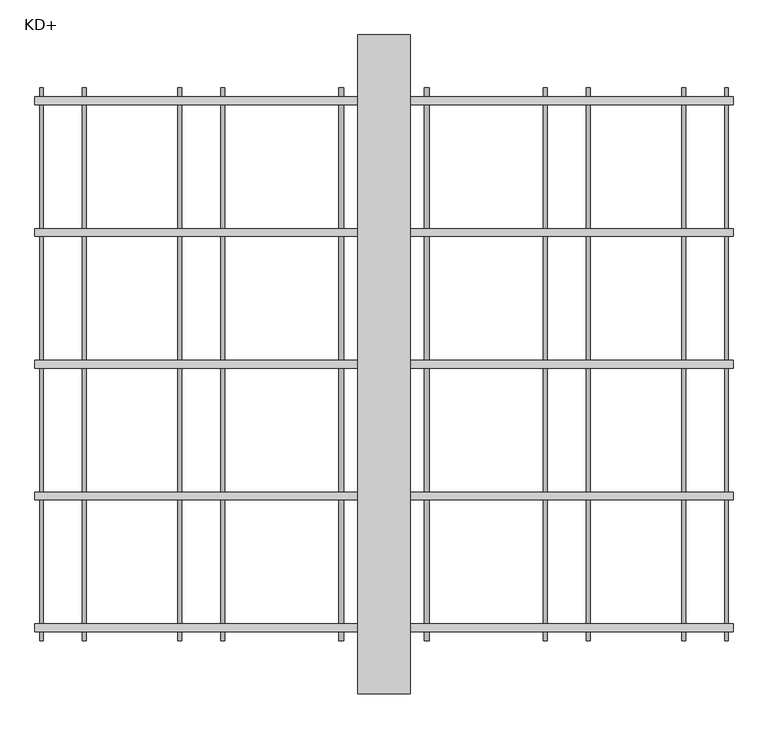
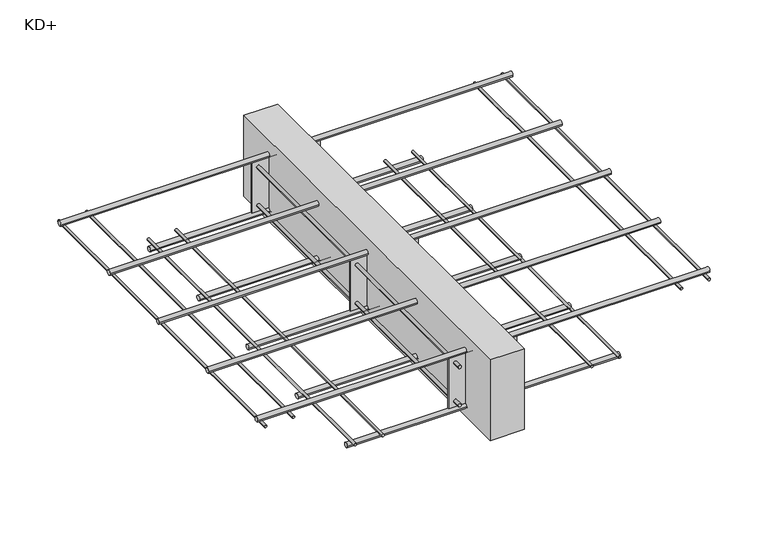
"""IFC4 building model written with IfcOpenShell, lengths in millimetres: fastener geometry, ACINOXplus_Typenreihe_K : KD+."""

import ifcopenshell
import ifcopenshell.guid

model = None  # the IFC model being written
_history = None  # IfcOwnerHistory: only IFC2X3 demands one
_inside = {}  # id of a spatial element -> (the spatial element, [elements in it])
_under = {}  # id of a project, library or spatial element -> (it, [spatial elements below it])
_declared = {}  # id of a project -> (the project, [libraries it declares])
_typed = {}  # id of a type object -> (the type object, [elements of that type])
_made_of = {}  # id of a material, layer set ... -> (it, [elements and type objects made of it])


def new_model(schema):
    """Start an empty IFC model of exactly this schema.

    Asked for "IFC4X3", IfcOpenShell would pick the latest addendum, in which some entities
    have other attributes; the version numbers below select the first issue.
    IFC2X3 requires an IfcOwnerHistory on every rooted entity: one is made here for all.
    """
    global model, _history
    if schema == "IFC4X3":
        model = ifcopenshell.file(schema_version=(4, 3, 0, 0))
    else:
        model = ifcopenshell.file(schema=schema)
    _inside.clear()
    _under.clear()
    _declared.clear()
    _typed.clear()
    _made_of.clear()
    _history = None
    if model.schema == "IFC2X3":
        org = make("IfcOrganization", Name="unknown")
        user = make(
            "IfcPersonAndOrganization",
            ThePerson=make("IfcPerson", FamilyName="unknown"),
            TheOrganization=org,
        )
        app = make(
            "IfcApplication",
            ApplicationDeveloper=org,
            Version="unknown",
            ApplicationFullName="unknown",
            ApplicationIdentifier="unknown",
        )
        _history = make(
            "IfcOwnerHistory",
            OwningUser=user,
            OwningApplication=app,
            ChangeAction="ADDED",
            CreationDate=0,
        )
    return model


def make(cls, **values):
    """One entity of the class cls with the attributes given. An attribute that is None is left unset."""
    return model.create_entity(
        cls, **{name: value for name, value in values.items() if value is not None}
    )


def rooted(cls, **values):
    """An entity with a GlobalId (a new one), such as an element, a storey or a relation."""
    return make(cls, GlobalId=ifcopenshell.guid.new(), OwnerHistory=_history, **values)


def si_unit(unit_type, name, prefix=None):
    """IfcSIUnit, for example si_unit("LENGTHUNIT", "METRE", prefix="MILLI")."""
    return make("IfcSIUnit", UnitType=unit_type, Prefix=prefix, Name=name)


def assignment(units):
    """IfcUnitAssignment: the units of a project."""
    return None if units is None else make("IfcUnitAssignment", Units=units)


def point(xyz):
    """IfcCartesianPoint."""
    return None if xyz is None else make("IfcCartesianPoint", Coordinates=xyz)


def direction(xyz):
    """IfcDirection."""
    return None if xyz is None else make("IfcDirection", DirectionRatios=xyz)


def frame(location, z_axis=None, x_axis=None):
    """IfcAxis2Placement3D, a coordinate frame: its origin and axes. An axis left out is left unset."""
    return make(
        "IfcAxis2Placement3D",
        Location=point(location),
        Axis=direction(z_axis),
        RefDirection=direction(x_axis),
    )


def frame_2d(location, x_axis=None):
    """IfcAxis2Placement2D, a coordinate frame in the plane: its origin and x axis."""
    return make(
        "IfcAxis2Placement2D", Location=point(location), RefDirection=direction(x_axis)
    )


def origin():
    """The frame at (0, 0, 0) with its axes left unset."""
    return frame((0.0, 0.0, 0.0))


def place(relative_to, where):
    """IfcLocalPlacement: puts the frame where relative to a parent placement (None: the world)."""
    return make(
        "IfcLocalPlacement", PlacementRelTo=relative_to, RelativePlacement=where
    )


def context(
    kind, dimensions, precision=None, world=None, true_north=None, identifier=None
):
    """IfcGeometricRepresentationContext, for example the 3D "Model" context."""
    return make(
        "IfcGeometricRepresentationContext",
        ContextIdentifier=identifier,
        ContextType=kind,
        CoordinateSpaceDimension=dimensions,
        Precision=precision,
        WorldCoordinateSystem=world,
        TrueNorth=true_north,
    )


def project(units=None, contexts=None):
    """IfcProject with its units and contexts."""
    return rooted(
        "IfcProject",
        Name="project",
        RepresentationContexts=contexts,
        UnitsInContext=assignment(units),
    )


def spatial(cls, under=None, at=None, **own):
    """A site, building, storey or space (cls), placed at a placement, below another one or the project."""
    s = rooted(cls, ObjectPlacement=at, **own)
    if under is not None:
        _under.setdefault(under.id(), (under, []))[1].append(s)
    return s


def polyline(points):
    """IfcPolyline through the points."""
    return make("IfcPolyline", Points=[point(p) for p in points])


def circle_curve(where, radius):
    """IfcCircle in the frame where."""
    return make("IfcCircle", Position=where, Radius=radius)


def trimmed(basis, trim1, trim2, sense, master):
    """IfcTrimmedCurve: the piece of a basis curve between two trims."""
    return make(
        "IfcTrimmedCurve",
        BasisCurve=basis,
        Trim1=trim1,
        Trim2=trim2,
        SenseAgreement=sense,
        MasterRepresentation=master,
    )


def segment(curve, same_sense, transition):
    """IfcCompositeCurveSegment."""
    return make(
        "IfcCompositeCurveSegment",
        Transition=transition,
        SameSense=same_sense,
        ParentCurve=curve,
    )


def composite_curve(segments, self_intersect=None):
    """IfcCompositeCurve: segments joined end to end."""
    return make("IfcCompositeCurve", Segments=segments, SelfIntersect=self_intersect)


def outline(outer, holes=None, kind="AREA"):
    """IfcArbitraryClosedProfileDef: a profile drawn as a closed curve; with holes, ...WithVoids."""
    if holes is None:
        return make("IfcArbitraryClosedProfileDef", ProfileType=kind, OuterCurve=outer)
    return make(
        "IfcArbitraryProfileDefWithVoids",
        ProfileType=kind,
        OuterCurve=outer,
        InnerCurves=holes,
    )


def extrude(swept, where, along, depth):
    """IfcExtrudedAreaSolid: the profile swept, set in the frame where, extruded along a direction by depth."""
    return make(
        "IfcExtrudedAreaSolid",
        SweptArea=swept,
        Position=where,
        ExtrudedDirection=direction(along),
        Depth=depth,
    )


def shape(context_of_items, identifier, shape_type, items):
    """IfcShapeRepresentation: the items that make up one representation, for example the "Body"."""
    return make(
        "IfcShapeRepresentation",
        ContextOfItems=context_of_items,
        RepresentationIdentifier=identifier,
        RepresentationType=shape_type,
        Items=items,
    )


def source(mapping_origin, context_of_items, identifier, shape_type, items):
    """IfcRepresentationMap: a shape defined once, which mapped items show again and again."""
    return make(
        "IfcRepresentationMap",
        MappingOrigin=mapping_origin,
        MappedRepresentation=shape(context_of_items, identifier, shape_type, items),
    )


def transform(
    local_origin,
    x_axis=None,
    y_axis=None,
    z_axis=None,
    scale=None,
    scale2=None,
    scale3=None,
    uniform=True,
):
    """IfcCartesianTransformationOperator3D, or its non-uniform kind. x_axis, y_axis, z_axis: its Axis1, 2, 3."""
    if uniform:
        return make(
            "IfcCartesianTransformationOperator3D",
            Axis1=direction(x_axis),
            Axis2=direction(y_axis),
            LocalOrigin=point(local_origin),
            Scale=scale,
            Axis3=direction(z_axis),
        )
    return make(
        "IfcCartesianTransformationOperator3DnonUniform",
        Axis1=direction(x_axis),
        Axis2=direction(y_axis),
        LocalOrigin=point(local_origin),
        Scale=scale,
        Axis3=direction(z_axis),
        Scale2=scale2,
        Scale3=scale3,
    )


def mapped(mapping_source, mapping_target):
    """IfcMappedItem: shows the shape of a source again, moved by a transform."""
    return make(
        "IfcMappedItem", MappingSource=mapping_source, MappingTarget=mapping_target
    )


def made_of(thing, what):
    """Note that an element or type object is made of a material, layer set ...; save() writes the relation."""
    if what is not None:
        _made_of.setdefault(what.id(), (what, []))[1].append(thing)
    return thing


def element(
    cls,
    number,
    at=None,
    inside=None,
    cuts=None,
    type_object=None,
    material=None,
    context=None,
    identifier="Body",
    shape_type=None,
    held_by="IfcProductDefinitionShape",
    body=None,
    shapes=None,
    **own,
):
    """One element of the class cls, such as IfcWall. Its Tag is "e" and its number.

    at: its placement. inside: the storey or other place that contains it. cuts: it is an
    opening in that element (IfcRelVoidsElement). A single representation is given by context,
    identifier, shape_type and body (its items); several are given by shapes. held_by: the class
    of the entity that holds the representations. save() writes the other relations.
    """
    e = rooted(cls, Tag="e%d" % number, ObjectPlacement=at, **own)
    if body is not None:
        shapes = [shape(context, identifier, shape_type, body)]
    if shapes is not None:
        e.Representation = make(held_by, Representations=shapes)
    if inside is not None:
        _inside.setdefault(inside.id(), (inside, []))[1].append(e)
    if cuts is not None:
        rooted(
            "IfcRelVoidsElement", RelatingBuildingElement=cuts, RelatedOpeningElement=e
        )
    if type_object is not None:
        _typed.setdefault(type_object.id(), (type_object, []))[1].append(e)
    return made_of(e, material)


def aggregate(whole, parts):
    """IfcRelAggregates: a whole, such as a stair, and the parts it consists of."""
    return rooted("IfcRelAggregates", RelatingObject=whole, RelatedObjects=parts)


def save(model, path):
    """Write the relations noted so far, then the file.

    IfcRelAggregates (storeys below a building ...), IfcRelContainedInSpatialStructure (elements
    in a storey), IfcRelDefinesByType, IfcRelAssociatesMaterial and IfcRelDeclares: one each for
    every whole, place, type object, material and project.
    """
    for whole, parts in _under.values():
        aggregate(whole, parts)
    for where, things in _inside.values():
        rooted(
            "IfcRelContainedInSpatialStructure",
            RelatedElements=things,
            RelatingStructure=where,
        )
    for kind, things in _typed.values():
        rooted("IfcRelDefinesByType", RelatedObjects=things, RelatingType=kind)
    for what, things in _made_of.values():
        rooted("IfcRelAssociatesMaterial", RelatedObjects=things, RelatingMaterial=what)
    for by, libraries in _declared.values():
        rooted("IfcRelDeclares", RelatingContext=by, RelatedDefinitions=libraries)
    model.write(path)


def kd_84d7a89a(model_context):
    return source(origin(), model_context, "Body", "SweptSolid", [
        extrude(outline(polyline([(40.0, 500.0), (40.0, -500.0), (-40.0, -500.0), (-40.0, 500.0), (40.0, 500.0)])), frame((0.0, 0.0, -200.0), z_axis=(0.0, 0.0, 1.0), x_axis=(1.0, 0.0, 0.0)), (0.0, 0.0, 1.0), 200.0),
        extrude(outline(polyline([(80.0, 1.5), (80.0, -1.5), (-80.0, -1.5), (-80.0, 1.5), (80.0, 1.5)])), frame((0.0, 0.0, -167.0), z_axis=(0.0, 0.0, 1.0), x_axis=(1.0, 0.0, 0.0)), (0.0, 0.0, 1.0), 125.0),
        extrude(outline(polyline([(80.0, -398.5), (80.0, -401.5), (-80.0, -401.5), (-80.0, -398.5), (80.0, -398.5)])), frame((0.0, 0.0, -167.0), z_axis=(0.0, 0.0, 1.0), x_axis=(1.0, 0.0, 0.0)), (0.0, 0.0, 1.0), 125.0),
        extrude(outline(polyline([(80.0, 401.5), (80.0, 398.5), (-80.0, 398.5), (-80.0, 401.5), (80.0, 401.5)])), frame((0.0, 0.0, -167.0), z_axis=(0.0, 0.0, 1.0), x_axis=(1.0, 0.0, 0.0)), (0.0, 0.0, 1.0), 125.0),
        extrude(outline(composite_curve([segment(trimmed(circle_curve(frame_2d((-152.0, -65.0)), 4.0), [point((-152.0, -61.0))], [point((-152.0, -69.0))], False, "CARTESIAN"), True, "CONTINUOUS"), segment(trimmed(circle_curve(frame_2d((-152.0, -65.0)), 4.0), [point((-152.0, -69.0))], [point((-152.0, -61.0))], False, "CARTESIAN"), True, "CONTINUOUS")], self_intersect=False)), frame((0.0, -420.0, 0.0), z_axis=(0.0, 1.0, 0.0), x_axis=(0.0, 0.0, 1.0)), (0.0, 0.0, 1.0), 18.5),
        extrude(outline(composite_curve([segment(trimmed(circle_curve(frame_2d((-152.0, -65.0)), 4.0), [point((-152.0, -69.0))], [point((-152.0, -61.0))], False, "CARTESIAN"), True, "CONTINUOUS"), segment(trimmed(circle_curve(frame_2d((-152.0, -65.0)), 4.0), [point((-152.0, -61.0))], [point((-152.0, -69.0))], False, "CARTESIAN"), True, "CONTINUOUS")], self_intersect=False)), frame((0.0, -398.5, 0.0), z_axis=(0.0, 1.0, 0.0), x_axis=(0.0, 0.0, 1.0)), (0.0, 0.0, 1.0), 397.0),
        extrude(outline(composite_curve([segment(trimmed(circle_curve(frame_2d((-152.0, -65.0)), 4.0), [point((-152.0, -69.0))], [point((-152.0, -61.0))], False, "CARTESIAN"), True, "CONTINUOUS"), segment(trimmed(circle_curve(frame_2d((-152.0, -65.0)), 4.0), [point((-152.0, -61.0))], [point((-152.0, -69.0))], False, "CARTESIAN"), True, "CONTINUOUS")], self_intersect=False)), frame((0.0, 401.5, 0.0), z_axis=(0.0, 1.0, 0.0), x_axis=(0.0, 0.0, 1.0)), (0.0, 0.0, 1.0), 18.5),
        extrude(outline(composite_curve([segment(trimmed(circle_curve(frame_2d((-152.0, -65.0)), 4.0), [point((-152.0, -69.0))], [point((-152.0, -61.0))], False, "CARTESIAN"), True, "CONTINUOUS"), segment(trimmed(circle_curve(frame_2d((-152.0, -65.0)), 4.0), [point((-152.0, -61.0))], [point((-152.0, -69.0))], False, "CARTESIAN"), True, "CONTINUOUS")], self_intersect=False)), frame((0.0, 1.5, 0.0), z_axis=(0.0, 1.0, 0.0), x_axis=(0.0, 0.0, 1.0)), (0.0, 0.0, 1.0), 397.0),
        extrude(outline(composite_curve([segment(trimmed(circle_curve(frame_2d((-152.0, 65.0)), 4.0), [point((-152.0, 69.0))], [point((-152.0, 61.0))], False, "CARTESIAN"), True, "CONTINUOUS"), segment(trimmed(circle_curve(frame_2d((-152.0, 65.0)), 4.0), [point((-152.0, 61.0))], [point((-152.0, 69.0))], False, "CARTESIAN"), True, "CONTINUOUS")], self_intersect=False)), frame((0.0, -420.0, 0.0), z_axis=(0.0, 1.0, 0.0), x_axis=(0.0, 0.0, 1.0)), (0.0, 0.0, 1.0), 18.5),
        extrude(outline(composite_curve([segment(trimmed(circle_curve(frame_2d((-152.0, 65.0)), 4.0), [point((-152.0, 61.0))], [point((-152.0, 69.0))], False, "CARTESIAN"), True, "CONTINUOUS"), segment(trimmed(circle_curve(frame_2d((-152.0, 65.0)), 4.0), [point((-152.0, 69.0))], [point((-152.0, 61.0))], False, "CARTESIAN"), True, "CONTINUOUS")], self_intersect=False)), frame((0.0, -398.5, 0.0), z_axis=(0.0, 1.0, 0.0), x_axis=(0.0, 0.0, 1.0)), (0.0, 0.0, 1.0), 397.0),
        extrude(outline(composite_curve([segment(trimmed(circle_curve(frame_2d((-152.0, 65.0)), 4.0), [point((-152.0, 61.0))], [point((-152.0, 69.0))], False, "CARTESIAN"), True, "CONTINUOUS"), segment(trimmed(circle_curve(frame_2d((-152.0, 65.0)), 4.0), [point((-152.0, 69.0))], [point((-152.0, 61.0))], False, "CARTESIAN"), True, "CONTINUOUS")], self_intersect=False)), frame((0.0, 401.5, 0.0), z_axis=(0.0, 1.0, 0.0), x_axis=(0.0, 0.0, 1.0)), (0.0, 0.0, 1.0), 18.5),
        extrude(outline(composite_curve([segment(trimmed(circle_curve(frame_2d((-152.0, 65.0)), 4.0), [point((-152.0, 61.0))], [point((-152.0, 69.0))], False, "CARTESIAN"), True, "CONTINUOUS"), segment(trimmed(circle_curve(frame_2d((-152.0, 65.0)), 4.0), [point((-152.0, 69.0))], [point((-152.0, 61.0))], False, "CARTESIAN"), True, "CONTINUOUS")], self_intersect=False)), frame((0.0, 1.5, 0.0), z_axis=(0.0, 1.0, 0.0), x_axis=(0.0, 0.0, 1.0)), (0.0, 0.0, 1.0), 397.0),
        extrude(outline(composite_curve([segment(trimmed(circle_curve(frame_2d((-57.0, -65.0)), 4.0), [point((-57.0, -61.0))], [point((-57.0, -69.0))], False, "CARTESIAN"), True, "CONTINUOUS"), segment(trimmed(circle_curve(frame_2d((-57.0, -65.0)), 4.0), [point((-57.0, -69.0))], [point((-57.0, -61.0))], False, "CARTESIAN"), True, "CONTINUOUS")], self_intersect=False)), frame((0.0, -420.0, 0.0), z_axis=(0.0, 1.0, 0.0), x_axis=(0.0, 0.0, 1.0)), (0.0, 0.0, 1.0), 18.5),
        extrude(outline(composite_curve([segment(trimmed(circle_curve(frame_2d((-57.0, -65.0)), 4.0), [point((-57.0, -69.0))], [point((-57.0, -61.0))], False, "CARTESIAN"), True, "CONTINUOUS"), segment(trimmed(circle_curve(frame_2d((-57.0, -65.0)), 4.0), [point((-57.0, -61.0))], [point((-57.0, -69.0))], False, "CARTESIAN"), True, "CONTINUOUS")], self_intersect=False)), frame((0.0, -398.5, 0.0), z_axis=(0.0, 1.0, 0.0), x_axis=(0.0, 0.0, 1.0)), (0.0, 0.0, 1.0), 397.0),
        extrude(outline(composite_curve([segment(trimmed(circle_curve(frame_2d((-57.0, -65.0)), 4.0), [point((-57.0, -69.0))], [point((-57.0, -61.0))], False, "CARTESIAN"), True, "CONTINUOUS"), segment(trimmed(circle_curve(frame_2d((-57.0, -65.0)), 4.0), [point((-57.0, -61.0))], [point((-57.0, -69.0))], False, "CARTESIAN"), True, "CONTINUOUS")], self_intersect=False)), frame((0.0, 401.5, 0.0), z_axis=(0.0, 1.0, 0.0), x_axis=(0.0, 0.0, 1.0)), (0.0, 0.0, 1.0), 18.5),
        extrude(outline(composite_curve([segment(trimmed(circle_curve(frame_2d((-57.0, -65.0)), 4.0), [point((-57.0, -69.0))], [point((-57.0, -61.0))], False, "CARTESIAN"), True, "CONTINUOUS"), segment(trimmed(circle_curve(frame_2d((-57.0, -65.0)), 4.0), [point((-57.0, -61.0))], [point((-57.0, -69.0))], False, "CARTESIAN"), True, "CONTINUOUS")], self_intersect=False)), frame((0.0, 1.5, 0.0), z_axis=(0.0, 1.0, 0.0), x_axis=(0.0, 0.0, 1.0)), (0.0, 0.0, 1.0), 397.0),
        extrude(outline(composite_curve([segment(trimmed(circle_curve(frame_2d((-57.0, 65.0)), 4.0), [point((-57.0, 69.0))], [point((-57.0, 61.0))], False, "CARTESIAN"), True, "CONTINUOUS"), segment(trimmed(circle_curve(frame_2d((-57.0, 65.0)), 4.0), [point((-57.0, 61.0))], [point((-57.0, 69.0))], False, "CARTESIAN"), True, "CONTINUOUS")], self_intersect=False)), frame((0.0, -420.0, 0.0), z_axis=(0.0, 1.0, 0.0), x_axis=(0.0, 0.0, 1.0)), (0.0, 0.0, 1.0), 18.5),
        extrude(outline(composite_curve([segment(trimmed(circle_curve(frame_2d((-57.0, 65.0)), 4.0), [point((-57.0, 61.0))], [point((-57.0, 69.0))], False, "CARTESIAN"), True, "CONTINUOUS"), segment(trimmed(circle_curve(frame_2d((-57.0, 65.0)), 4.0), [point((-57.0, 69.0))], [point((-57.0, 61.0))], False, "CARTESIAN"), True, "CONTINUOUS")], self_intersect=False)), frame((0.0, -398.5, 0.0), z_axis=(0.0, 1.0, 0.0), x_axis=(0.0, 0.0, 1.0)), (0.0, 0.0, 1.0), 397.0),
        extrude(outline(composite_curve([segment(trimmed(circle_curve(frame_2d((-57.0, 65.0)), 4.0), [point((-57.0, 61.0))], [point((-57.0, 69.0))], False, "CARTESIAN"), True, "CONTINUOUS"), segment(trimmed(circle_curve(frame_2d((-57.0, 65.0)), 4.0), [point((-57.0, 69.0))], [point((-57.0, 61.0))], False, "CARTESIAN"), True, "CONTINUOUS")], self_intersect=False)), frame((0.0, 401.5, 0.0), z_axis=(0.0, 1.0, 0.0), x_axis=(0.0, 0.0, 1.0)), (0.0, 0.0, 1.0), 18.5),
        extrude(outline(composite_curve([segment(trimmed(circle_curve(frame_2d((-57.0, 65.0)), 4.0), [point((-57.0, 61.0))], [point((-57.0, 69.0))], False, "CARTESIAN"), True, "CONTINUOUS"), segment(trimmed(circle_curve(frame_2d((-57.0, 65.0)), 4.0), [point((-57.0, 69.0))], [point((-57.0, 61.0))], False, "CARTESIAN"), True, "CONTINUOUS")], self_intersect=False)), frame((0.0, 1.5, 0.0), z_axis=(0.0, 1.0, 0.0), x_axis=(0.0, 0.0, 1.0)), (0.0, 0.0, 1.0), 397.0),
        extrude(outline(composite_curve([segment(trimmed(circle_curve(frame_2d((0.0, -173.0)), 6.0), [point((-6.0, -173.0))], [point((6.0, -173.0))], False, "CARTESIAN"), True, "CONTINUOUS"), segment(trimmed(circle_curve(frame_2d((0.0, -173.0)), 6.0), [point((6.0, -173.0))], [point((-6.0, -173.0))], False, "CARTESIAN"), True, "CONTINUOUS")], self_intersect=False)), frame((-320.0, 0.0, 0.0), z_axis=(1.0, 0.0, 0.0), x_axis=(0.0, 1.0, 0.0)), (0.0, 0.0, 1.0), 640.0),
        extrude(outline(composite_curve([segment(trimmed(circle_curve(frame_2d((200.0, -173.0)), 6.0), [point((194.0, -173.0))], [point((206.0, -173.0))], False, "CARTESIAN"), True, "CONTINUOUS"), segment(trimmed(circle_curve(frame_2d((200.0, -173.0)), 6.0), [point((206.0, -173.0))], [point((194.0, -173.0))], False, "CARTESIAN"), True, "CONTINUOUS")], self_intersect=False)), frame((-320.0, 0.0, 0.0), z_axis=(1.0, 0.0, 0.0), x_axis=(0.0, 1.0, 0.0)), (0.0, 0.0, 1.0), 640.0),
        extrude(outline(composite_curve([segment(trimmed(circle_curve(frame_2d((400.0, -173.0)), 6.0), [point((394.0, -173.0))], [point((406.0, -173.0))], False, "CARTESIAN"), True, "CONTINUOUS"), segment(trimmed(circle_curve(frame_2d((400.0, -173.0)), 6.0), [point((406.0, -173.0))], [point((394.0, -173.0))], False, "CARTESIAN"), True, "CONTINUOUS")], self_intersect=False)), frame((-320.0, 0.0, 0.0), z_axis=(1.0, 0.0, 0.0), x_axis=(0.0, 1.0, 0.0)), (0.0, 0.0, 1.0), 640.0),
        extrude(outline(composite_curve([segment(trimmed(circle_curve(frame_2d((-200.0, -173.0)), 6.0), [point((-206.0, -173.0))], [point((-194.0, -173.0))], False, "CARTESIAN"), True, "CONTINUOUS"), segment(trimmed(circle_curve(frame_2d((-200.0, -173.0)), 6.0), [point((-194.0, -173.0))], [point((-206.0, -173.0))], False, "CARTESIAN"), True, "CONTINUOUS")], self_intersect=False)), frame((-320.0, 0.0, 0.0), z_axis=(1.0, 0.0, 0.0), x_axis=(0.0, 1.0, 0.0)), (0.0, 0.0, 1.0), 640.0),
        extrude(outline(composite_curve([segment(trimmed(circle_curve(frame_2d((-400.0, -173.0)), 6.0), [point((-406.0, -173.0))], [point((-394.0, -173.0))], False, "CARTESIAN"), True, "CONTINUOUS"), segment(trimmed(circle_curve(frame_2d((-400.0, -173.0)), 6.0), [point((-394.0, -173.0))], [point((-406.0, -173.0))], False, "CARTESIAN"), True, "CONTINUOUS")], self_intersect=False)), frame((-320.0, 0.0, 0.0), z_axis=(1.0, 0.0, 0.0), x_axis=(0.0, 1.0, 0.0)), (0.0, 0.0, 1.0), 640.0),
        extrude(outline(composite_curve([segment(trimmed(circle_curve(frame_2d((0.0, -36.0)), 6.0), [point((-6.0, -36.0))], [point((6.0, -36.0))], False, "CARTESIAN"), True, "CONTINUOUS"), segment(trimmed(circle_curve(frame_2d((0.0, -36.0)), 6.0), [point((6.0, -36.0))], [point((-6.0, -36.0))], False, "CARTESIAN"), True, "CONTINUOUS")], self_intersect=False)), frame((-530.0, 0.0, 0.0), z_axis=(1.0, 0.0, 0.0), x_axis=(0.0, 1.0, 0.0)), (0.0, 0.0, 1.0), 1060.0),
        extrude(outline(composite_curve([segment(trimmed(circle_curve(frame_2d((200.0, -36.0)), 6.0), [point((194.0, -36.0))], [point((206.0, -36.0))], False, "CARTESIAN"), True, "CONTINUOUS"), segment(trimmed(circle_curve(frame_2d((200.0, -36.0)), 6.0), [point((206.0, -36.0))], [point((194.0, -36.0))], False, "CARTESIAN"), True, "CONTINUOUS")], self_intersect=False)), frame((-530.0, 0.0, 0.0), z_axis=(1.0, 0.0, 0.0), x_axis=(0.0, 1.0, 0.0)), (0.0, 0.0, 1.0), 1060.0),
        extrude(outline(composite_curve([segment(trimmed(circle_curve(frame_2d((400.0, -36.0)), 6.0), [point((394.0, -36.0))], [point((406.0, -36.0))], False, "CARTESIAN"), True, "CONTINUOUS"), segment(trimmed(circle_curve(frame_2d((400.0, -36.0)), 6.0), [point((406.0, -36.0))], [point((394.0, -36.0))], False, "CARTESIAN"), True, "CONTINUOUS")], self_intersect=False)), frame((-530.0, 0.0, 0.0), z_axis=(1.0, 0.0, 0.0), x_axis=(0.0, 1.0, 0.0)), (0.0, 0.0, 1.0), 1060.0),
        extrude(outline(composite_curve([segment(trimmed(circle_curve(frame_2d((-200.0, -36.0)), 6.0), [point((-206.0, -36.0))], [point((-194.0, -36.0))], False, "CARTESIAN"), True, "CONTINUOUS"), segment(trimmed(circle_curve(frame_2d((-200.0, -36.0)), 6.0), [point((-194.0, -36.0))], [point((-206.0, -36.0))], False, "CARTESIAN"), True, "CONTINUOUS")], self_intersect=False)), frame((-530.0, 0.0, 0.0), z_axis=(1.0, 0.0, 0.0), x_axis=(0.0, 1.0, 0.0)), (0.0, 0.0, 1.0), 1060.0),
        extrude(outline(composite_curve([segment(trimmed(circle_curve(frame_2d((-400.0, -36.0)), 6.0), [point((-406.0, -36.0))], [point((-394.0, -36.0))], False, "CARTESIAN"), True, "CONTINUOUS"), segment(trimmed(circle_curve(frame_2d((-400.0, -36.0)), 6.0), [point((-394.0, -36.0))], [point((-406.0, -36.0))], False, "CARTESIAN"), True, "CONTINUOUS")], self_intersect=False)), frame((-530.0, 0.0, 0.0), z_axis=(1.0, 0.0, 0.0), x_axis=(0.0, 1.0, 0.0)), (0.0, 0.0, 1.0), 1060.0),
        extrude(outline(composite_curve([segment(trimmed(circle_curve(frame_2d((-164.0, -310.0)), 3.0), [point((-164.0, -307.0))], [point((-164.0, -313.0))], False, "CARTESIAN"), True, "CONTINUOUS"), segment(trimmed(circle_curve(frame_2d((-164.0, -310.0)), 3.0), [point((-164.0, -313.0))], [point((-164.0, -307.0))], False, "CARTESIAN"), True, "CONTINUOUS")], self_intersect=False)), frame((0.0, -420.0, 0.0), z_axis=(0.0, 1.0, 0.0), x_axis=(0.0, 0.0, 1.0)), (0.0, 0.0, 1.0), 840.0),
        extrude(outline(composite_curve([segment(trimmed(circle_curve(frame_2d((-164.0, -245.0)), 3.0), [point((-164.0, -242.0))], [point((-164.0, -248.0))], False, "CARTESIAN"), True, "CONTINUOUS"), segment(trimmed(circle_curve(frame_2d((-164.0, -245.0)), 3.0), [point((-164.0, -248.0))], [point((-164.0, -242.0))], False, "CARTESIAN"), True, "CONTINUOUS")], self_intersect=False)), frame((0.0, -420.0, 0.0), z_axis=(0.0, 1.0, 0.0), x_axis=(0.0, 0.0, 1.0)), (0.0, 0.0, 1.0), 840.0),
        extrude(outline(composite_curve([segment(trimmed(circle_curve(frame_2d((-164.0, 245.0)), 3.0), [point((-164.0, 248.0))], [point((-164.0, 242.0))], False, "CARTESIAN"), True, "CONTINUOUS"), segment(trimmed(circle_curve(frame_2d((-164.0, 245.0)), 3.0), [point((-164.0, 242.0))], [point((-164.0, 248.0))], False, "CARTESIAN"), True, "CONTINUOUS")], self_intersect=False)), frame((0.0, -420.0, 0.0), z_axis=(0.0, 1.0, 0.0), x_axis=(0.0, 0.0, 1.0)), (0.0, 0.0, 1.0), 840.0),
        extrude(outline(composite_curve([segment(trimmed(circle_curve(frame_2d((-164.0, 310.0)), 3.0), [point((-164.0, 313.0))], [point((-164.0, 307.0))], False, "CARTESIAN"), True, "CONTINUOUS"), segment(trimmed(circle_curve(frame_2d((-164.0, 310.0)), 3.0), [point((-164.0, 307.0))], [point((-164.0, 313.0))], False, "CARTESIAN"), True, "CONTINUOUS")], self_intersect=False)), frame((0.0, -420.0, 0.0), z_axis=(0.0, 1.0, 0.0), x_axis=(0.0, 0.0, 1.0)), (0.0, 0.0, 1.0), 840.0),
        extrude(outline(composite_curve([segment(trimmed(circle_curve(frame_2d((-45.0, 455.0)), 3.0), [point((-45.0, 458.0))], [point((-45.0, 452.0))], False, "CARTESIAN"), True, "CONTINUOUS"), segment(trimmed(circle_curve(frame_2d((-45.0, 455.0)), 3.0), [point((-45.0, 452.0))], [point((-45.0, 458.0))], False, "CARTESIAN"), True, "CONTINUOUS")], self_intersect=False)), frame((0.0, -420.0, 0.0), z_axis=(0.0, 1.0, 0.0), x_axis=(0.0, 0.0, 1.0)), (0.0, 0.0, 1.0), 840.0),
        extrude(outline(composite_curve([segment(trimmed(circle_curve(frame_2d((-45.0, 520.0)), 3.0), [point((-45.0, 523.0))], [point((-45.0, 517.0))], False, "CARTESIAN"), True, "CONTINUOUS"), segment(trimmed(circle_curve(frame_2d((-45.0, 520.0)), 3.0), [point((-45.0, 517.0))], [point((-45.0, 523.0))], False, "CARTESIAN"), True, "CONTINUOUS")], self_intersect=False)), frame((0.0, -420.0, 0.0), z_axis=(0.0, 1.0, 0.0), x_axis=(0.0, 0.0, 1.0)), (0.0, 0.0, 1.0), 840.0),
        extrude(outline(composite_curve([segment(trimmed(circle_curve(frame_2d((-45.0, -520.0)), 3.0), [point((-45.0, -517.0))], [point((-45.0, -523.0))], False, "CARTESIAN"), True, "CONTINUOUS"), segment(trimmed(circle_curve(frame_2d((-45.0, -520.0)), 3.0), [point((-45.0, -523.0))], [point((-45.0, -517.0))], False, "CARTESIAN"), True, "CONTINUOUS")], self_intersect=False)), frame((0.0, -420.0, 0.0), z_axis=(0.0, 1.0, 0.0), x_axis=(0.0, 0.0, 1.0)), (0.0, 0.0, 1.0), 840.0),
        extrude(outline(composite_curve([segment(trimmed(circle_curve(frame_2d((-45.0, -455.0)), 3.0), [point((-45.0, -452.0))], [point((-45.0, -458.0))], False, "CARTESIAN"), True, "CONTINUOUS"), segment(trimmed(circle_curve(frame_2d((-45.0, -455.0)), 3.0), [point((-45.0, -458.0))], [point((-45.0, -452.0))], False, "CARTESIAN"), True, "CONTINUOUS")], self_intersect=False)), frame((0.0, -420.0, 0.0), z_axis=(0.0, 1.0, 0.0), x_axis=(0.0, 0.0, 1.0)), (0.0, 0.0, 1.0), 840.0),
    ])


if __name__ == "__main__":
    model = new_model("IFC4")
    model_context = context("Model", 3, world=origin())
    ifc_project = project(units=[si_unit("LENGTHUNIT", "METRE", prefix="MILLI")], contexts=[model_context])
    site = spatial("IfcSite", under=ifc_project)
    building = spatial("IfcBuilding", under=site)
    placement = place(None, origin())
    kd_shape = kd_84d7a89a(model_context)
    element("IfcFastener", 1, ObjectType="ACINOXplus_Typenreihe_K : KD+", at=placement, inside=building, context=model_context, shape_type="MappedRepresentation", body=[
        mapped(kd_shape, transform((0.0, 0.0, 0.0), x_axis=(1.0, 0.0, 0.0), y_axis=(0.0, 1.0, 0.0), z_axis=(0.0, 0.0, 1.0))),
    ])
    save(model, "model.ifc")
